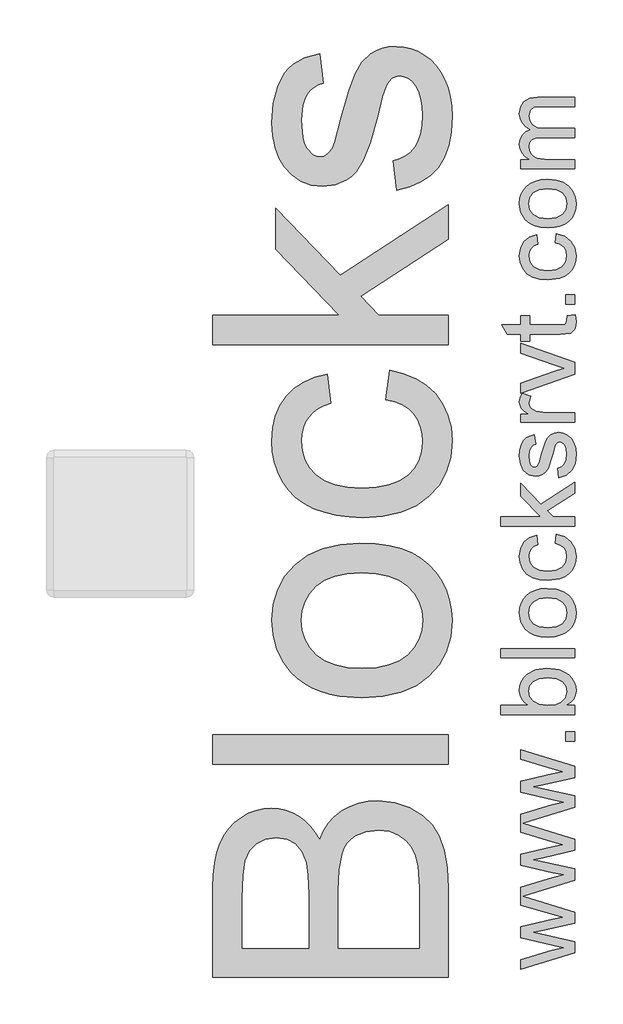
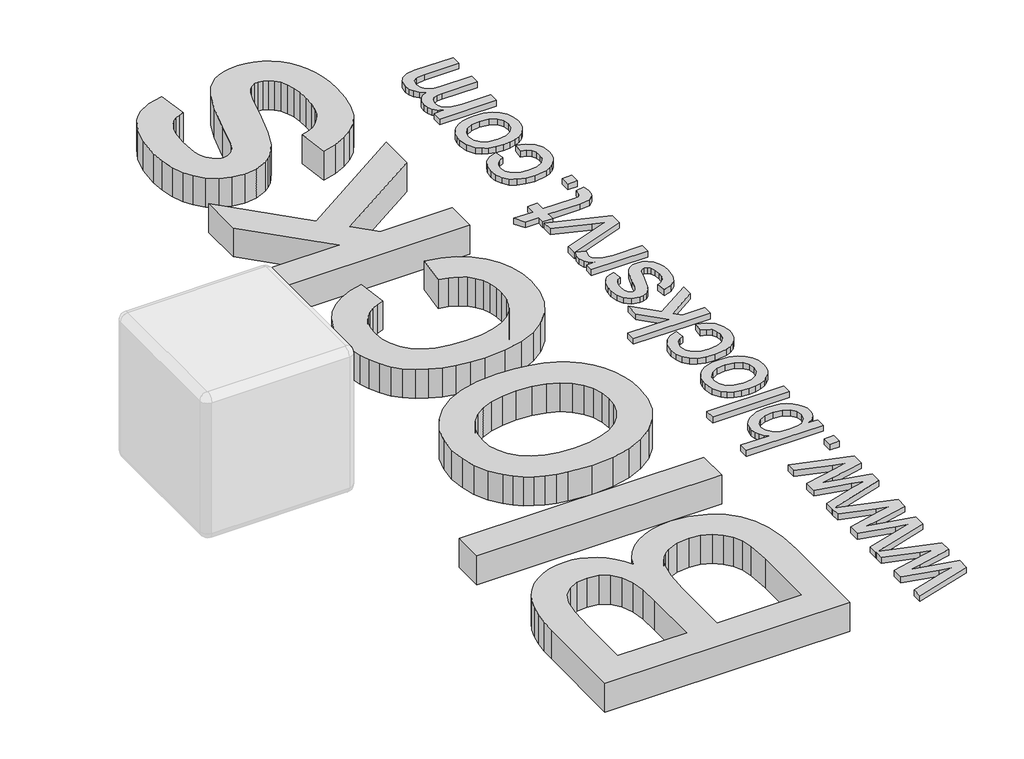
# One storey, part 19 of 19: 2 proxies.
"""IFC4 building model written with IfcOpenShell, lengths in millimetres."""

from ifc_helpers import new_model, si_unit, origin, origin_with_axes, place, context, project, spatial, polyline, outline, extrude, element, save

model = new_model("IFC4")

# Units and contexts
model_context = context("Model", 3, world=origin())
ifc_project = project(units=[si_unit("LENGTHUNIT", "METRE", prefix="MILLI")], contexts=[model_context])

# Site, building, storey
site = spatial("IfcSite", under=ifc_project)
building = spatial("IfcBuilding", under=site)
storey = spatial("IfcBuildingStorey", under=building, Name="PORTOBELLO - SHOWROOM", Elevation=0.0)

# Proxies
placement = place(None, origin())
element("IfcBuildingElementProxy", 1, Name="25mm Arial", ObjectType="25mm Arial", at=placement, inside=storey, context=model_context, shape_type="SweptSolid", body=[
    extrude(outline(polyline([(19889.4244227, 28991.5635927), (19711.4044402, 28937.1751739), (19889.4244227, 28882.6092085), (19889.4244227, 28844.717363), (19781.2671161, 28820.5597786), (19747.5445999, 28813.5700207), (19889.4244227, 28782.4839921), (19889.4244227, 28744.346892), (19711.4044402, 28689.9584731), (19889.4244227, 28635.3925077), (19889.4244227, 28597.5006622), (19781.2671161, 28573.3430779), (19747.5445999, 28566.35332), (19889.4244227, 28535.2672914), (19889.4244227, 28497.1301912), (19704.9929158, 28440.7829323), (19704.9929158, 28473.3404889), (19812.5983994, 28505.2235951), (19851.0420679, 28514.7272133), (19814.0086137, 28522.5140489), (19704.9929158, 28547.8365929), (19704.9929158, 28585.1153017), (19813.7020453, 28610.4378457), (19847.2406206, 28617.36629), (19811.8626354, 28627.2991038), (19704.9929158, 28659.1822101), (19704.9929158, 28687.999633), (19704.9929158, 28691.9237077), (19704.9929158, 28720.5571896), (19812.5983994, 28752.4402959), (19851.0420679, 28761.9439141), (19814.0086137, 28769.7307496), (19704.9929158, 28795.0532936), (19704.9929158, 28832.3320025), (19813.7020453, 28857.6545465), (19847.2406206, 28864.5829907), (19811.8626354, 28874.5158046), (19704.9929158, 28906.3989108), (19704.9929158, 28935.2163338), (19704.9929158, 28939.1404084), (19704.9929158, 28967.7738904), (19812.5983994, 28999.6569966), (19851.0420679, 29009.1606148), (19814.0086137, 29016.9474504), (19704.9929158, 29042.2699944), (19704.9929158, 29079.5487032), (19813.7020453, 29104.8712472), (19847.2406206, 29111.7996915), (19811.8626354, 29121.7325054), (19704.9929158, 29153.6156116), (19704.9929158, 29186.3571092), (19889.4244227, 29129.8259093), (19889.4244227, 29091.9340637), (19781.2671161, 29067.7764794), (19747.5445999, 29060.7867215), (19889.4244227, 29029.7006929), (19889.4244227, 28991.5635927)])), origin_with_axes(), (0.0, 0.0, 1.0), 20.0),
    extrude(outline(polyline([(19889.4244227, 29215.7876688), (19858.0318258, 29215.7876688), (19858.0318258, 29247.1802657), (19889.4244227, 29247.1802657), (19889.4244227, 29215.7876688)])), origin_with_axes(), (0.0, 0.0, 1.0), 20.0),
    extrude(outline(polyline([(19889.4244227, 29337.4339819), (19889.4244227, 29306.0413849), (19638.2836473, 29306.0413849), (19638.2836473, 29337.4339819), (19731.4191058, 29337.4339819), (19718.140865, 29347.7576704), (19708.6564073, 29359.4149311), (19702.9657327, 29372.405764), (19701.0688412, 29386.7301692), (19702.7779596, 29402.9016486), (19707.9053149, 29418.1840798), (19716.1290103, 29431.7037431), (19727.1271491, 29442.5869188), (19757.0175613, 29457.5781101), (19794.4495543, 29463.0043696), (19836.3574449, 29457.3865049), (19853.2876809, 29450.3641741), (19867.535444, 29440.532911), (19878.8286548, 29428.7319464), (19886.895234, 29415.800511), (19891.7351815, 29401.738605), (19893.3484973, 29386.5462282), (19891.2676648, 29371.7504742), (19885.0251672, 29358.6331818), (19874.6210045, 29347.194351), (19860.0551767, 29337.4339819), (19889.4244227, 29337.4339819)]), holes=[polyline([(19795.9210822, 29337.4339819), (19822.1020176, 29339.5799602), (19839.821667, 29346.0178951), (19856.422342, 29362.465286), (19861.9559004, 29383.8484269), (19857.8785416, 29401.9666152), (19845.6464653, 29417.4483158), (19825.3363134, 29428.0709084), (19797.0247282, 29431.6117726), (19768.2992758, 29428.2165284), (19748.2190502, 29418.0307956), (19736.4008411, 29403.0319401), (19732.4614381, 29385.1973276), (19736.5387969, 29367.0791393), (19748.7708732, 29351.5974387), (19768.713143, 29340.9748461), (19795.9210822, 29337.4339819)])]), origin_with_axes(), (0.0, 0.0, 1.0), 20.0),
    extrude(outline(polyline([(19889.4244227, 29498.3210411), (19638.2836473, 29498.3210411), (19638.2836473, 29529.713638), (19889.4244227, 29529.713638), (19889.4244227, 29498.3210411)])), origin_with_axes(), (0.0, 0.0, 1.0), 20.0),
    extrude(outline(polyline([(19797.2086692, 29568.9543842), (19773.3231643, 29570.6520063), (19752.7409331, 29575.7448727), (19735.4619756, 29584.2329833), (19721.4862919, 29596.1163381), (19706.1732038, 29621.285598), (19701.0688412, 29651.4212647), (19702.6227594, 29668.7404593), (19707.284514, 29684.4003528), (19715.0541051, 29698.4009452), (19725.9315327, 29710.7422365), (19739.5489146, 29720.8149221), (19755.5383691, 29728.0096976), (19773.8998959, 29732.3265629), (19794.6334953, 29733.765518), (19826.3479889, 29731.2210009), (19850.4902449, 29723.5874495), (19868.5701121, 29711.0871258), (19882.0974396, 29693.942292), (19890.5357329, 29673.5784907), (19893.3484973, 29651.4212647), (19891.8003272, 29633.8491513), (19887.155817, 29618.0436379), (19879.4149667, 29604.0047245), (19868.5777763, 29591.732411), (19854.8281867, 29581.7670243), (19838.350139, 29574.6488909), (19819.1436332, 29570.3780108), (19797.2086692, 29568.9543842)]), holes=[polyline([(19797.1473556, 29600.3469811), (19825.5585755, 29603.9798158), (19845.7997494, 29614.8783199), (19857.9168626, 29631.2797255), (19861.9559004, 29651.4212647), (19857.89387, 29671.4708335), (19845.7077789, 29687.8415823), (19825.1983577, 29698.7400864), (19796.1663369, 29702.3729211), (19768.5828515, 29698.7170938), (19748.617589, 29687.7496118), (19736.5004758, 29671.3558704), (19732.4614381, 29651.4212647), (19736.4851474, 29631.2797255), (19748.5562754, 29614.8783199), (19768.7514641, 29603.9798158), (19797.1473556, 29600.3469811)])]), origin_with_axes(), (0.0, 0.0, 1.0), 20.0),
    extrude(outline(polyline([(19822.7151542, 29886.804428), (19826.6392288, 29918.1970249), (19854.5599394, 29909.4444991), (19875.6595047, 29892.9971082), (19888.9262491, 29870.4030224), (19893.3484973, 29843.2104116), (19891.8060754, 29825.6038092), (19887.1788097, 29809.8174563), (19879.4667001, 29795.8513528), (19868.6697468, 29783.7054988), (19854.9910511, 29773.8742357), (19838.6337147, 29766.8519049), (19797.8831196, 29761.2340403), (19769.9470805, 29763.6329375), (19745.7358467, 29770.829629), (19726.1844515, 29782.939078), (19712.2279283, 29800.0762476), (19703.858613, 29820.5780047), (19701.0688412, 29842.7812159), (19704.9009453, 29869.3070406), (19716.3972576, 29890.5139048), (19734.9446415, 29905.7273581), (19759.9299604, 29914.2729503), (19763.854035, 29882.8803534), (19750.1580949, 29877.1858467), (19740.3402441, 29868.3183577), (19734.4311396, 29856.7683959), (19732.4614381, 29843.0264706), (19736.3395274, 29822.7393114), (19747.9737955, 29806.6368099), (19767.9927074, 29796.1291804), (19797.0247282, 29792.6266372), (19826.4476236, 29796.0525383), (19846.5355134, 29806.3302415), (19858.1008036, 29822.1415031), (19861.9559004, 29842.1680792), (19859.549339, 29858.4238649), (19852.3296548, 29871.751923), (19840.1129069, 29881.4471464), (19822.7151542, 29886.804428)])), origin_with_axes(), (0.0, 0.0, 1.0), 20.0),
    extrude(outline(polyline([(19889.4244227, 29945.6655472), (19638.2836473, 29945.6655472), (19638.2836473, 29977.0581441), (19773.2350259, 29977.0581441), (19704.9929158, 30047.4462326), (19704.9929158, 30090.856308), (19774.0934172, 30019.5485146), (19889.4244227, 30094.7803826), (19889.4244227, 30058.1148104), (19795.9210822, 29997.0463992), (19815.3575143, 29977.0581441), (19889.4244227, 29977.0581441), (19889.4244227, 29945.6655472)])), origin_with_axes(), (0.0, 0.0, 1.0), 20.0),
    extrude(outline(polyline([(19834.4873781, 30110.4766811), (19830.5633035, 30141.869278), (19843.9909963, 30146.8203565), (19853.8624965, 30156.4006168), (19859.9325494, 30170.6713725), (19861.9559004, 30189.6939374), (19860.101162, 30208.4865759), (19854.5369468, 30221.6996709), (19846.4741997, 30229.5171633), (19837.1238657, 30232.1229941), (19829.1224323, 30229.5018349), (19823.0217226, 30221.6383573), (19814.0699273, 30189.3260554), (19798.710854, 30142.053219), (19790.9929964, 30130.0893899), (19780.7766068, 30121.4211704), (19768.713143, 30116.1558594), (19755.4540628, 30114.4007557), (19732.0628992, 30120.0416129), (19714.1899656, 30135.4313431), (19704.9009453, 30155.3889413), (19701.0688412, 30182.3976111), (19702.609347, 30202.8303903), (19707.2308646, 30220.596025), (19714.4812056, 30234.8821091), (19723.9081817, 30244.8762366), (19736.2092359, 30251.4981125), (19752.0818112, 30255.6674418), (19756.0058858, 30224.2748449), (19746.1267214, 30220.3124492), (19738.6847752, 30212.4719642), (19734.0172723, 30200.6767478), (19732.4614381, 30184.8501578), (19733.9482945, 30166.82394), (19738.4088637, 30154.8064615), (19744.8467986, 30148.0466298), (19752.2657521, 30145.7933526), (19761.4014884, 30149.5334862), (19768.3299326, 30161.2443964), (19775.0131222, 30188.283723), (19789.7897157, 30234.3609429), (19796.8561156, 30246.5317056), (19806.5283464, 30255.7594123), (19818.8370649, 30261.5765464), (19833.8129277, 30263.5155911), (19849.2946284, 30261.2393212), (19863.856624, 30254.4105117), (19876.3569476, 30243.2897455), (19885.6536322, 30228.1376059), (19891.424781, 30209.8354766), (19893.3484973, 30189.2647417), (19889.6390205, 30157.6115617), (19878.5105902, 30134.5116381), (19860.0858336, 30119.0912511), (19834.4873781, 30110.4766811)])), origin_with_axes(), (0.0, 0.0, 1.0), 20.0),
    extrude(outline(polyline([(19889.4244227, 30461.9266138), (19704.9929158, 30396.934128), (19704.9929158, 30430.1048212), (19815.4801417, 30469.4681947), (19852.6362232, 30481.3017322), (19817.5648063, 30492.890015), (19704.9929158, 30532.4373295), (19704.9929158, 30565.6693364), (19889.4244227, 30501.5965556), (19889.4244227, 30461.9266138)])), origin_with_axes(), (0.0, 0.0, 1.0), 20.0),
    extrude(outline(polyline([(19889.4244227, 30298.8322626), (19704.9929158, 30298.8322626), (19704.9929158, 30326.3007849), (19732.2774971, 30326.3007849), (19716.4585713, 30336.4481966), (19707.1388941, 30345.7985306), (19701.0688412, 30365.4189037), (19703.490731, 30381.0538885), (19710.7564004, 30396.934128), (19738.899373, 30386.4494911), (19732.4614381, 30364.3765714), (19734.0096081, 30355.0032447), (19738.6541183, 30346.6262651), (19755.8219448, 30335.3138938), (19792.487517, 30330.2248595), (19889.4244227, 30330.2248595), (19889.4244227, 30298.8322626)])), origin_with_axes(), (0.0, 0.0, 1.0), 20.0),
    extrude(outline(polyline([(19863.2434874, 30659.8471272), (19890.3441277, 30663.7712018), (19893.3484973, 30640.2880678), (19892.0455819, 30625.2202344), (19888.1368357, 30613.9845051), (19874.4638882, 30600.8633806), (19838.8406483, 30597.0619333), (19736.3855127, 30597.0619333), (19736.3855127, 30573.5174857), (19704.9929158, 30573.5174857), (19704.9929158, 30597.0619333), (19660.172626, 30597.0619333), (19641.7172126, 30628.4545303), (19704.9929158, 30628.4545303), (19704.9929158, 30659.8471272), (19736.3855127, 30659.8471272), (19736.3855127, 30628.4545303), (19837.9209434, 30628.4545303), (19854.1077511, 30630.1099992), (19859.8405789, 30635.474945), (19861.9559004, 30646.1741797), (19863.2434874, 30659.8471272)])), origin_with_axes(), (0.0, 0.0, 1.0), 20.0),
    extrude(outline(polyline([(19889.4244227, 30699.0878733), (19858.0318258, 30699.0878733), (19858.0318258, 30730.4804703), (19889.4244227, 30730.4804703), (19889.4244227, 30699.0878733)])), origin_with_axes(), (0.0, 0.0, 1.0), 20.0),
    extrude(outline(polyline([(19822.7151542, 30907.063828), (19826.6392288, 30938.4564249), (19854.5599394, 30929.7038991), (19875.6595047, 30913.2565082), (19888.9262491, 30890.6624223), (19893.3484973, 30863.4698115), (19891.8060754, 30845.8632092), (19887.1788097, 30830.0768563), (19879.4667001, 30816.1107528), (19868.6697468, 30803.9648988), (19854.9910511, 30794.1336357), (19838.6337147, 30787.1113049), (19797.8831196, 30781.4934403), (19769.9470805, 30783.8923374), (19745.7358467, 30791.089029), (19726.1844515, 30803.198478), (19712.2279283, 30820.3356476), (19703.858613, 30840.8374046), (19701.0688412, 30863.0406159), (19704.9009453, 30889.5664406), (19716.3972576, 30910.7733047), (19734.9446415, 30925.9867581), (19759.9299604, 30934.5323503), (19763.854035, 30903.1397533), (19750.1580949, 30897.4452466), (19740.3402441, 30888.5777577), (19734.4311396, 30877.0277959), (19732.4614381, 30863.2858705), (19736.3395274, 30842.9987113), (19747.9737955, 30826.8962098), (19767.9927074, 30816.3885803), (19797.0247282, 30812.8860372), (19826.4476236, 30816.3119383), (19846.5355134, 30826.5896415), (19858.1008036, 30842.4009031), (19861.9559004, 30862.4274792), (19859.549339, 30878.6832649), (19852.3296548, 30892.011323), (19840.1129069, 30901.7065464), (19822.7151542, 30907.063828)])), origin_with_axes(), (0.0, 0.0, 1.0), 20.0),
    extrude(outline(polyline([(19797.2086692, 30958.0767979), (19773.3231643, 30959.7744201), (19752.7409331, 30964.8672864), (19735.4619756, 30973.3553971), (19721.4862919, 30985.2387519), (19706.1732038, 31010.4080118), (19701.0688412, 31040.5436785), (19702.6227594, 31057.8628731), (19707.284514, 31073.5227666), (19715.0541051, 31087.523359), (19725.9315327, 31099.8646503), (19739.5489146, 31109.9373359), (19755.5383691, 31117.1321114), (19773.8998959, 31121.4489767), (19794.6334953, 31122.8879318), (19826.3479889, 31120.3434147), (19850.4902449, 31112.7098633), (19868.5701121, 31100.2095396), (19882.0974396, 31083.0647058), (19890.5357329, 31062.7009045), (19893.3484973, 31040.5436785), (19891.8003272, 31022.9715651), (19887.155817, 31007.1660517), (19879.4149667, 30993.1271383), (19868.5777763, 30980.8548248), (19854.8281867, 30970.8894381), (19838.350139, 30963.7713047), (19819.1436332, 30959.5004246), (19797.2086692, 30958.0767979)]), holes=[polyline([(19797.1473556, 30989.4693949), (19825.5585755, 30993.1022296), (19845.7997494, 31004.0007337), (19857.9168626, 31020.4021393), (19861.9559004, 31040.5436785), (19857.89387, 31060.5932473), (19845.7077789, 31076.9639961), (19825.1983577, 31087.8625002), (19796.1663369, 31091.4953349), (19768.5828515, 31087.8395075), (19748.617589, 31076.8720256), (19736.5004758, 31060.4782841), (19732.4614381, 31040.5436785), (19736.4851474, 31020.4021393), (19748.5562754, 31004.0007337), (19768.7514641, 30993.1022296), (19797.1473556, 30989.4693949)])]), origin_with_axes(), (0.0, 0.0, 1.0), 20.0),
    extrude(outline(polyline([(19889.4244227, 31158.2046033), (19704.9929158, 31158.2046033), (19704.9929158, 31189.5972002), (19735.3431804, 31189.5972002), (19721.4019856, 31199.0395048), (19710.4804889, 31211.1796106), (19703.4217531, 31225.6036505), (19701.0688412, 31241.8977572), (19703.4677383, 31259.3568236), (19710.6644299, 31273.3516678), (19722.1837348, 31283.8056478), (19737.5504723, 31290.6421216), (19721.5897587, 31302.0847845), (19710.189249, 31315.1369311), (19703.3489431, 31329.7985615), (19701.0688412, 31346.0696755), (19704.8626242, 31369.6677727), (19716.2439735, 31387.1191748), (19735.5194572, 31397.9027158), (19762.9956437, 31401.4972295), (19889.4244227, 31401.4972295), (19889.4244227, 31370.1046325), (19776.4846502, 31370.1046325), (19750.273058, 31367.1922334), (19737.3665313, 31356.6462829), (19732.4614381, 31338.7120356), (19735.6037635, 31321.7051576), (19745.0307396, 31307.8406049), (19761.3861599, 31298.6205624), (19785.313818, 31295.5472149), (19889.4244227, 31295.5472149), (19889.4244227, 31264.1546179), (19772.9897712, 31264.1546179), (19755.2394649, 31262.3382006), (19742.5781929, 31256.8889485), (19734.9906268, 31247.301024), (19732.4614381, 31233.0685893), (19734.1475639, 31220.9744688), (19739.2059413, 31209.83071), (19747.513943, 31200.6336601), (19758.9489417, 31194.3796662), (19796.4115916, 31189.5972002), (19889.4244227, 31189.5972002), (19889.4244227, 31158.2046033)])), origin_with_axes(), (0.0, 0.0, 1.0), 20.0),
])
element("IfcBuildingElementProxy", 2, Name="80mm Arial", ObjectType="80mm Arial", at=placement, inside=storey, context=model_context, shape_type="SweptSolid", body=[
    extrude(outline(polyline([(19459.981, 28413.5857085), (18660.5923017, 28413.5857085), (18660.5923017, 28718.6258783), (18662.062125, 28762.8730478), (18666.4715948, 28802.5216832), (18673.8207112, 28837.5717842), (18684.1094741, 28868.0233511), (18697.4476629, 28894.6509379), (18713.9450569, 28918.2290988), (18733.6016561, 28938.7578339), (18756.4174606, 28956.237143), (18781.1056125, 28970.1974147), (18806.3792542, 28980.1690373), (18832.2383857, 28986.1520109), (18858.683007, 28988.1463354), (18883.1089083, 28986.4691512), (18906.8151451, 28981.4375985), (18929.8017174, 28973.0516773), (18952.0686252, 28961.3113877), (18972.9205993, 28946.1801364), (18991.6623708, 28927.6213305), (19008.2939396, 28905.6349699), (19022.8153056, 28880.2210546), (19035.6716851, 28910.3798766), (19052.382539, 28936.8427944), (19072.9478671, 28959.609808), (19097.3676696, 28978.6809175), (19124.8978864, 28993.7511802), (19154.7944578, 29004.5156536), (19187.0573836, 29010.9743376), (19221.6866639, 29013.1272323), (19277.430169, 29007.2479392), (19329.1240366, 28989.6100599), (19373.0845601, 28963.2874156), (19405.6280331, 28931.3538278), (19429.1939963, 28892.2479903), (19446.2219904, 28844.4085971), (19456.5412476, 28786.2743421), (19459.981, 28716.2839192), (19459.981, 28413.5857085)]), holes=[polyline([(18985.3439604, 28513.5092958), (18985.3439604, 28695.9869406), (18983.1971646, 28759.8053254), (18976.7567771, 28802.5460786), (18961.948765, 28839.846656), (18939.77334, 28866.6572083), (18910.5720378, 28882.8313632), (18874.686394, 28888.2227481), (18839.8497527, 28883.1972943), (18809.5018663, 28868.1209327), (18785.8139261, 28843.6767349), (18770.9571232, 28810.5477721), (18763.1261975, 28759.7077438), (18760.515889, 28682.1303493), (18760.515889, 28513.5092958), (18985.3439604, 28513.5092958)]), polyline([(19360.0574127, 28513.5092958), (19360.0574127, 28718.430715), (19356.1541476, 28792.5927525), (19347.4937781, 28827.0146718), (19334.3934445, 28855.3377394), (19315.6333765, 28878.3670037), (19289.9938037, 28896.9075131), (19258.6213102, 28909.129612), (19222.6624802, 28913.203645), (19180.8975433, 28908.4221452), (19144.9875041, 28894.0776458), (19129.7220782, 28883.0326253), (19116.9083906, 28869.0235628), (19106.5464415, 28852.0504583), (19098.6362307, 28832.1133119), (19088.6097184, 28779.8339546), (19085.2675477, 28708.6725522), (19085.2675477, 28513.5092958), (19360.0574127, 28513.5092958)])]), origin_with_axes(), (0.0, 0.0, 1.0), 100.0),
    extrude(outline(polyline([(19459.981, 29138.0317164), (18660.5923017, 29138.0317164), (18660.5923017, 29237.9553037), (19459.981, 29237.9553037), (19459.981, 29138.0317164)])), origin_with_axes(), (0.0, 0.0, 1.0), 100.0),
    extrude(outline(polyline([(19166.4554623, 29362.8597878), (19090.4271763, 29368.2633704), (19056.3559409, 29375.0178488), (19024.9133106, 29384.4741184), (18996.0992855, 29396.6321794), (18969.9138654, 29411.4920317), (18946.3570505, 29429.0536754), (18925.4288407, 29449.3171104), (18896.9959937, 29487.3983408), (18876.6868174, 29529.4316271), (18864.5013115, 29575.4169694), (18860.4394763, 29625.3543677), (18865.385645, 29680.4818888), (18880.2241514, 29730.3278042), (18904.9549953, 29774.8921141), (18939.5781767, 29814.1748183), (18982.9227162, 29846.236482), (19033.8176342, 29869.1376704), (19092.2629306, 29882.8783834), (19158.2586056, 29887.4586211), (19211.7455355, 29885.4338023), (19259.2068, 29879.3593459), (19300.6423988, 29869.235252), (19336.0523322, 29855.0615205), (19366.6380738, 29837.0150181), (19393.6010974, 29815.2726116), (19416.9414031, 29789.8343009), (19436.6589909, 29760.700086), (19452.3269411, 29729.0043534), (19463.518334, 29695.8814895), (19470.2331698, 29661.3314942), (19472.4714484, 29625.3543677), (19467.5435762, 29569.4217982), (19452.7599595, 29519.11237), (19428.1205984, 29474.4260831), (19393.6254928, 29435.3629375), (19349.8601326, 29403.6428095), (19297.4100074, 29380.9855752), (19236.2751173, 29367.3912346), (19166.4554623, 29362.8597878)]), holes=[polyline([(19166.2602991, 29462.7833751), (19214.7278741, 29465.6742308), (19256.694073, 29474.346798), (19292.158896, 29488.8010767), (19321.1223431, 29509.0370668), (19343.6210072, 29533.6520326), (19359.6914816, 29561.2432379), (19369.3337663, 29591.810683), (19372.5478611, 29625.3543677), (19369.3154697, 29658.7272845), (19359.6182954, 29689.1727525), (19343.4563382, 29716.6907717), (19320.8295982, 29741.281342), (19291.5795051, 29761.5173322), (19255.5474889, 29775.9716108), (19212.7335495, 29784.644178), (19163.137687, 29787.5350338), (19116.2070227, 29784.6258815), (19075.338617, 29775.8984246), (19040.53247, 29761.3526632), (19011.7885816, 29740.9885971), (18989.2899175, 29716.306544), (18973.2194431, 29688.8068214), (18963.5771584, 29658.4894293), (18960.3630636, 29625.3543677), (18963.5649607, 29591.810683), (18973.1706523, 29561.2432379), (18989.1801381, 29533.6520326), (19011.5934184, 29509.0370668), (19040.4714815, 29488.8010767), (19075.875316, 29474.346798), (19117.8049218, 29465.6742308), (19166.2602991, 29462.7833751)])]), origin_with_axes(), (0.0, 0.0, 1.0), 100.0),
    extrude(outline(polyline([(19247.643377, 30374.5861091), (19260.1338254, 30474.5096964), (19307.2840484, 30463.6415426), (19349.0062933, 30446.6501416), (19385.3005602, 30423.5354934), (19416.166849, 30394.297598), (19440.8001112, 30360.1684236), (19458.3952986, 30322.379938), (19468.952411, 30280.9321414), (19472.4714484, 30235.8250338), (19467.5618728, 30179.7826849), (19452.8331458, 30129.5342453), (19428.2852674, 30085.0797148), (19393.9182377, 30046.4190934), (19350.378535, 30015.125885), (19298.3126375, 29992.7735933), (19237.7205452, 29979.3622183), (19168.6022582, 29974.8917599), (19122.6596078, 29976.8007006), (19079.6809995, 29982.5275224), (19039.666433, 29992.0722254), (19002.6159086, 30005.4348096), (18969.273486, 30022.7067578), (18940.3832252, 30043.9795527), (18915.9451262, 30069.2531944), (18895.9591889, 30098.5276829), (18880.4193146, 30130.4795673), (18869.3194044, 30163.7853968), (18862.6594583, 30198.4451713), (18860.4394763, 30234.458891), (18863.4889021, 30278.7914445), (18872.6371798, 30318.8913948), (18887.8843092, 30354.758742), (18909.2302904, 30386.3934861), (18936.1872152, 30413.2589282), (18968.2671754, 30434.8183691), (19005.4701712, 30451.0718091), (19047.7962024, 30462.019248), (19060.2866508, 30362.0956607), (19036.9463451, 30354.2952293), (19016.6920584, 30343.9698733), (18999.5237907, 30331.1195926), (18985.441542, 30315.7443873), (18974.4697077, 30298.2345839), (18966.6326832, 30278.9805089), (18961.9304685, 30257.9821623), (18960.3630636, 30235.239544), (18963.4490825, 30201.2872363), (18972.7071395, 30170.6649016), (18988.1372345, 30143.3725399), (19009.7393674, 30119.4101513), (19038.0136442, 30099.8999245), (19073.4601707, 30085.9640483), (19116.0789468, 30077.6025225), (19165.8699726, 30074.8153472), (19216.4111571, 30077.541534), (19259.5239403, 30085.7200942), (19295.2083219, 30099.3510279), (19323.4643021, 30118.4343351), (19344.9383592, 30141.9210132), (19360.2769714, 30168.7620598), (19369.4801387, 30198.9574749), (19372.5478611, 30232.5072584), (19370.6328217, 30259.5434683), (19364.8877033, 30284.2499168), (19355.3125061, 30306.6266039), (19341.9072299, 30326.6735297), (19324.5255024, 30343.8295997), (19303.020951, 30357.5337196), (19277.3935759, 30367.7858894), (19247.643377, 30374.5861091)])), origin_with_axes(), (0.0, 0.0, 1.0), 100.0),
    extrude(outline(polyline([(19459.981, 30561.9428353), (18660.5923017, 30561.9428353), (18660.5923017, 30661.8664226), (19090.1466291, 30661.8664226), (18872.9299247, 30885.913841), (18872.9299247, 31024.0894265), (19092.8789147, 30797.1145593), (19459.981, 31036.5798749), (19459.981, 30919.8722476), (19162.357034, 30725.4896442), (19224.2237863, 30661.8664226), (19459.981, 30661.8664226), (19459.981, 30561.9428353)])), origin_with_axes(), (0.0, 0.0, 1.0), 100.0),
    extrude(outline(polyline([(19285.1147223, 31086.5416686), (19272.6242738, 31186.4652559), (19295.409584, 31192.5031191), (19315.365027, 31202.2246888), (19332.4906028, 31215.629965), (19346.7863113, 31232.7189476), (19358.0569893, 31253.5404276), (19366.1074737, 31278.1431956), (19370.9377643, 31306.5272517), (19372.5478611, 31338.6925959), (19371.071939, 31370.821347), (19366.6441726, 31398.510134), (19359.264562, 31421.7589569), (19348.9331071, 31440.5678157), (19336.6134265, 31455.0830829), (19323.2691389, 31465.4511309), (19308.9002441, 31471.6719597), (19293.5067423, 31473.7455693), (19280.0160822, 31471.659762), (19268.0379373, 31465.4023401), (19257.5723077, 31454.9733036), (19248.6191933, 31440.3726525), (19235.9335816, 31402.9500981), (19220.1253579, 31337.5216164), (19193.7539228, 31246.3315848), (19171.2369621, 31187.0507456), (19146.6707872, 31148.9695152), (19131.4053613, 31133.8626594), (19114.1517096, 31121.3783099), (19075.7533389, 31104.6186652), (19033.5492847, 31099.032117), (18994.8337737, 31103.5208719), (18959.0945024, 31116.9871366), (18927.7464043, 31138.2111407), (18902.2044131, 31165.9731139), (18886.1278399, 31193.5643193), (18872.6371798, 31229.4987539), (18863.4889021, 31271.0441321), (18860.4394763, 31315.4681684), (18865.3429531, 31380.5063236), (18880.0533835, 31437.0548771), (18903.1314386, 31482.5279159), (18917.268577, 31500.1413998), (18933.1377893, 31514.3395267), (18972.2924176, 31535.4171584), (19022.8153056, 31548.6882598), (19035.305754, 31448.7646725), (19018.6131967, 31444.0014693), (19003.8600743, 31436.1522471), (18991.0463868, 31425.2170059), (18980.1721341, 31411.1957457), (18971.5056657, 31394.0274779), (18965.3153312, 31373.6512142), (18960.3630636, 31323.2746986), (18965.0957725, 31265.8967012), (18971.0116587, 31244.3799522), (18979.2938994, 31227.644703), (18999.7860414, 31206.127954), (19011.2030919, 31200.7487667), (19023.4007954, 31198.9557043), (19038.7699018, 31201.9319439), (19052.4801206, 31210.8606629), (19064.7266149, 31226.1321877), (19074.5335686, 31248.1368449), (19095.8063635, 31334.203841), (19121.9094491, 31422.4908191), (19142.8407083, 31480.8690282), (19165.3332736, 31519.6089346), (19196.1202773, 31548.9810047), (19214.648589, 31559.7820712), (19235.2993011, 31567.4971186), (19258.0724135, 31572.1261471), (19282.9679264, 31573.6691566), (19307.9732187, 31571.8577977), (19332.2466487, 31566.4237207), (19355.7882165, 31557.3669259), (19378.5979221, 31544.6874131), (19399.7670366, 31528.5925432), (19418.386831, 31509.2896774), (19434.4573054, 31486.7788156), (19447.9784597, 31461.0599577), (19458.6941423, 31432.8344717), (19466.3482013, 31402.8037256), (19470.9406366, 31370.9677194), (19472.4714484, 31337.3264531), (19469.5196042, 31283.5467782), (19460.6640714, 31236.573422), (19445.9048501, 31196.4063842), (19425.2419404, 31163.0456651), (19398.7729237, 31135.7959954), (19366.5953818, 31113.9621061), (19328.7093147, 31097.5439972), (19285.1147223, 31086.5416686)])), origin_with_axes(), (0.0, 0.0, 1.0), 100.0),
])

save(model, "model.ifc")
